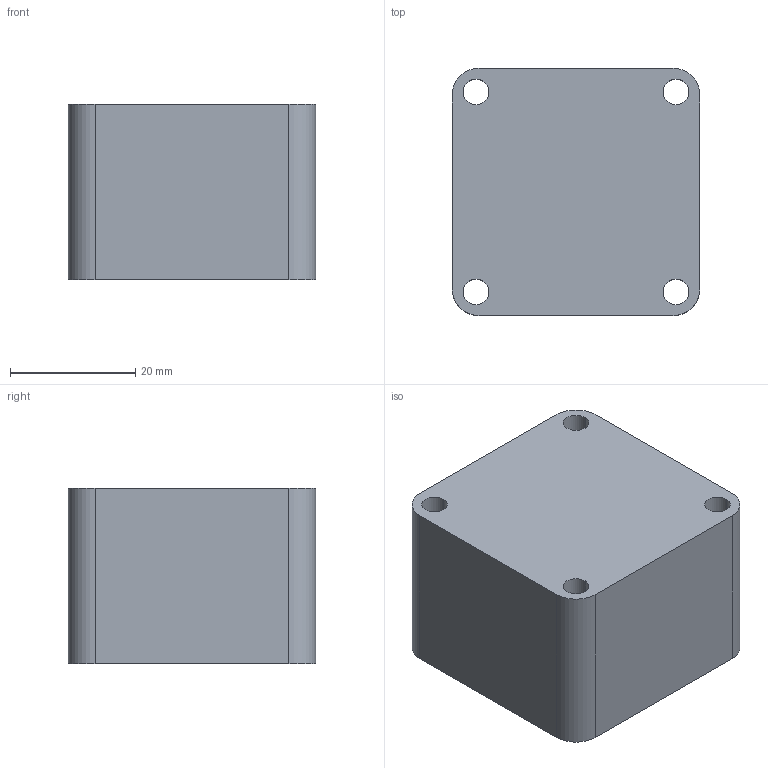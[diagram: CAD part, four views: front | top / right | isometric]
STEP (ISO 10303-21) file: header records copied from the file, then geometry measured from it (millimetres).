
FILE_DESCRIPTION (( 'STEP AP203' ), '1' );
FILE_NAME ('Type_A_Fan_Reference_Model.STEP', '2026-07-30T18:00:43', ( '' ), ( '' ), 'SwSTEP 2.0', 'SolidWorks 2024', '' );
FILE_SCHEMA (( 'CONFIG_CONTROL_DESIGN' ));
Length unit declared in the file: inch
Products named in the file (1): Type_A_Fan_Reference_Model
Bounding box: 39.6 x 39.6 x 28 mm (x, y, z)
Volume: 41985.4 mm3; surface area: 8670.1 mm2
Topology: 1 solids, 1 shells, 18 faces, 48 edges, 32 vertices
Faces by surface type: cylinder 12, plane 6
Entity records: 671 total; most frequent: DIRECTION 110, CARTESIAN_POINT 99, ORIENTED_EDGE 96, EDGE_CURVE 48, AXIS2_PLACEMENT_3D 43, VERTEX_POINT 32, EDGE_LOOP 26, CIRCLE 24
